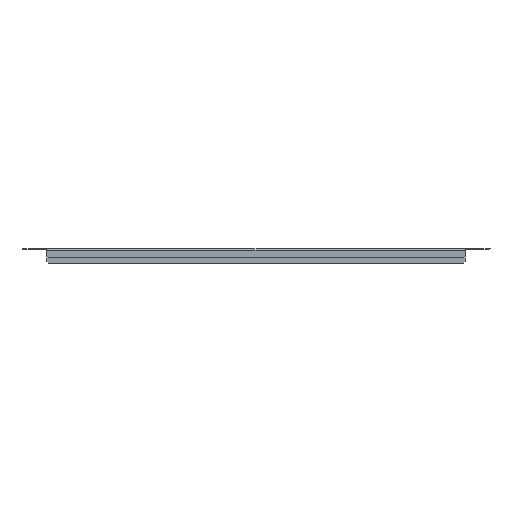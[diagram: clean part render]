
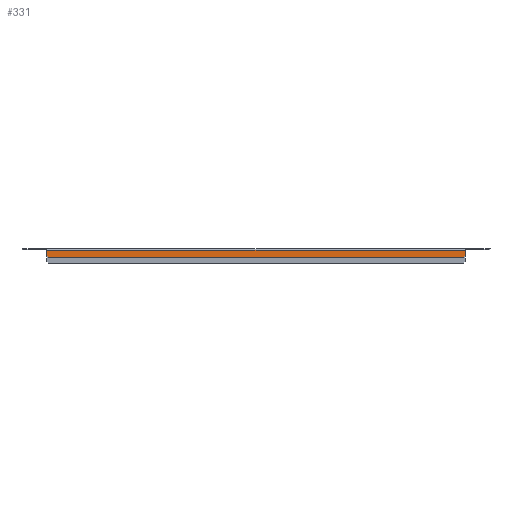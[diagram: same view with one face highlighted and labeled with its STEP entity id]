
A CAD part, front view. The second image highlights one B-rep face of the part: STEP entity #331.
In plain terms, the highlighted planar face has unit normal (0, -1, 0).
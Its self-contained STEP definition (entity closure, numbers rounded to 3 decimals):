
#8 = AXIS2_PLACEMENT_3D ( 'NONE', #948, #949, #950 ) ;
#9 = FACE_OUTER_BOUND ( 'NONE', #666, .T. ) ;
#53 = VECTOR ( 'NONE', #1252, 1000. ) ;
#55 = VECTOR ( 'NONE', #1231, 1000. ) ;
#66 = VECTOR ( 'NONE', #1222, 1000. ) ;
#94 = VECTOR ( 'NONE', #1246, 1000. ) ;
#95 = VECTOR ( 'NONE', #1249, 1000. ) ;
#149 = VECTOR ( 'NONE', #1243, 1000. ) ;
#331 = ADVANCED_FACE ( 'NONE', ( #9 ), #947, .F. ) ;
#415 = EDGE_CURVE ( 'NONE', #729, #727, #1220, .T. ) ;
#418 = EDGE_CURVE ( 'NONE', #727, #730, #1229, .T. ) ;
#422 = EDGE_CURVE ( 'NONE', #733, #729, #1241, .T. ) ;
#423 = EDGE_CURVE ( 'NONE', #734, #730, #1244, .T. ) ;
#424 = EDGE_CURVE ( 'NONE', #734, #735, #1247, .T. ) ;
#425 = EDGE_CURVE ( 'NONE', #733, #735, #1250, .T. ) ;
#443 = ORIENTED_EDGE ( 'NONE', *, *, #424, .F. ) ;
#445 = ORIENTED_EDGE ( 'NONE', *, *, #418, .F. ) ;
#446 = ORIENTED_EDGE ( 'NONE', *, *, #423, .T. ) ;
#447 = ORIENTED_EDGE ( 'NONE', *, *, #422, .F. ) ;
#461 = ORIENTED_EDGE ( 'NONE', *, *, #415, .F. ) ;
#462 = ORIENTED_EDGE ( 'NONE', *, *, #425, .T. ) ;
#666 = EDGE_LOOP ( 'NONE', ( #443, #446, #445, #461, #447, #462 ) ) ;
#727 = VERTEX_POINT ( 'NONE', #1321 ) ;
#729 = VERTEX_POINT ( 'NONE', #1323 ) ;
#730 = VERTEX_POINT ( 'NONE', #1324 ) ;
#733 = VERTEX_POINT ( 'NONE', #1327 ) ;
#734 = VERTEX_POINT ( 'NONE', #1328 ) ;
#735 = VERTEX_POINT ( 'NONE', #1329 ) ;
#947 = PLANE ( 'NONE',  #8 ) ;
#948 = CARTESIAN_POINT ( 'NONE',  ( 396.25, -49.5, -27. ) ) ;
#949 = DIRECTION ( 'NONE',  ( 0., 1., 0. ) ) ;
#950 = DIRECTION ( 'NONE',  ( 0., 0., 1. ) ) ;
#1220 = LINE ( 'NONE', #1221, #66 ) ;
#1221 = CARTESIAN_POINT ( 'NONE',  ( 396.25, -49.5, -2.9 ) ) ;
#1222 = DIRECTION ( 'NONE',  ( 1., 0., 0. ) ) ;
#1229 = LINE ( 'NONE', #1230, #55 ) ;
#1230 = CARTESIAN_POINT ( 'NONE',  ( 396.25, -49.5, -1.4 ) ) ;
#1231 = DIRECTION ( 'NONE',  ( 0., 0., -1. ) ) ;
#1241 = LINE ( 'NONE', #1242, #149 ) ;
#1242 = CARTESIAN_POINT ( 'NONE',  ( -396.25, -49.5, -27. ) ) ;
#1243 = DIRECTION ( 'NONE',  ( 0., 0., 1. ) ) ;
#1244 = LINE ( 'NONE', #1245, #94 ) ;
#1245 = CARTESIAN_POINT ( 'NONE',  ( 396.25, -49.5, -12.8 ) ) ;
#1246 = DIRECTION ( 'NONE',  ( 0.707, 0., 0.707 ) ) ;
#1247 = LINE ( 'NONE', #1248, #95 ) ;
#1248 = CARTESIAN_POINT ( 'NONE',  ( 396.25, -49.5, -16.3 ) ) ;
#1249 = DIRECTION ( 'NONE',  ( -1., 0., 0. ) ) ;
#1250 = LINE ( 'NONE', #1251, #53 ) ;
#1251 = CARTESIAN_POINT ( 'NONE',  ( -392.75, -49.5, -16.3 ) ) ;
#1252 = DIRECTION ( 'NONE',  ( 0.707, 0., -0.707 ) ) ;
#1321 = CARTESIAN_POINT ( 'NONE',  ( 396.25, -49.5, -2.9 ) ) ;
#1323 = CARTESIAN_POINT ( 'NONE',  ( -396.25, -49.5, -2.9 ) ) ;
#1324 = CARTESIAN_POINT ( 'NONE',  ( 396.25, -49.5, -12.8 ) ) ;
#1327 = CARTESIAN_POINT ( 'NONE',  ( -396.25, -49.5, -12.8 ) ) ;
#1328 = CARTESIAN_POINT ( 'NONE',  ( 392.75, -49.5, -16.3 ) ) ;
#1329 = CARTESIAN_POINT ( 'NONE',  ( -392.75, -49.5, -16.3 ) ) ;
